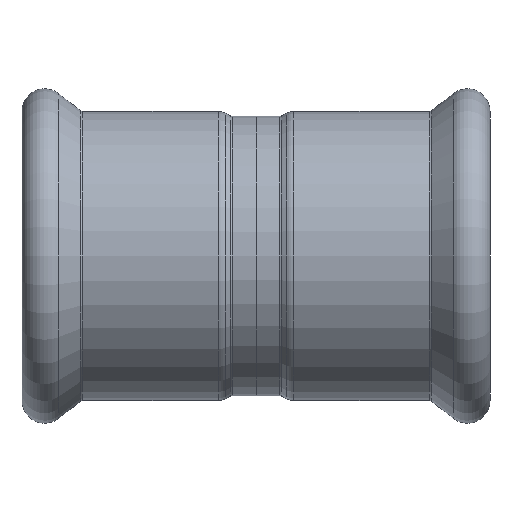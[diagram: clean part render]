
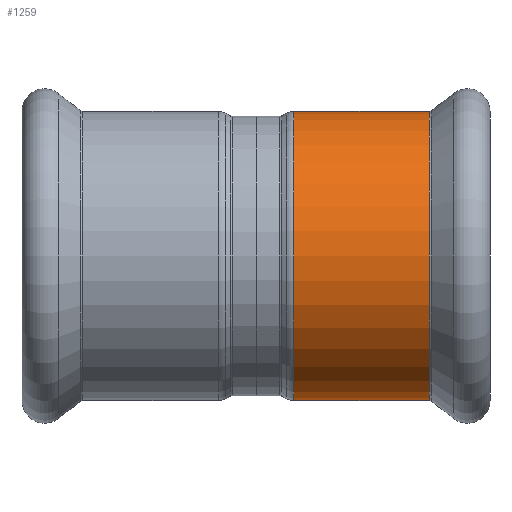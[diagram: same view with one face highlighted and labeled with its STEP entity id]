
A CAD part, front view. The second image highlights one B-rep face of the part: STEP entity #1259.
In plain terms, the highlighted cylindrical face has radius 19.15 mm (diameter 38.3 mm), a partial arc.
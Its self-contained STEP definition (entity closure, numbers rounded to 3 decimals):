
#18 = CARTESIAN_POINT ( 'NONE',  ( 5., 0., -19.15 ) ) ;
#56 = EDGE_CURVE ( 'NONE', #836, #812, #329, .T. ) ;
#86 = ORIENTED_EDGE ( 'NONE', *, *, #56, .F. ) ;
#89 = DIRECTION ( 'NONE',  ( 0., 0., 1. ) ) ;
#268 = EDGE_CURVE ( 'NONE', #836, #639, #615, .T. ) ;
#303 = CARTESIAN_POINT ( 'NONE',  ( 22.955, 0., -19.15 ) ) ;
#326 = ORIENTED_EDGE ( 'NONE', *, *, #268, .T. ) ;
#329 = LINE ( 'NONE', #740, #1940 ) ;
#396 = CARTESIAN_POINT ( 'NONE',  ( 5., 0., 19.15 ) ) ;
#401 = DIRECTION ( 'NONE',  ( -1., 0., 0. ) ) ;
#430 = AXIS2_PLACEMENT_3D ( 'NONE', #731, #401, #1799 ) ;
#506 = ORIENTED_EDGE ( 'NONE', *, *, #1245, .F. ) ;
#615 = CIRCLE ( 'NONE', #1559, 19.15 ) ;
#620 = CARTESIAN_POINT ( 'NONE',  ( -47.221, 0., 19.15 ) ) ;
#639 = VERTEX_POINT ( 'NONE', #708 ) ;
#684 = FACE_OUTER_BOUND ( 'NONE', #1316, .T. ) ;
#708 = CARTESIAN_POINT ( 'NONE',  ( 22.955, 0., 19.15 ) ) ;
#731 = CARTESIAN_POINT ( 'NONE',  ( 5., 0., 0. ) ) ;
#740 = CARTESIAN_POINT ( 'NONE',  ( -47.221, 0., -19.15 ) ) ;
#812 = VERTEX_POINT ( 'NONE', #18 ) ;
#836 = VERTEX_POINT ( 'NONE', #303 ) ;
#876 = DIRECTION ( 'NONE',  ( -1., 0., 0. ) ) ;
#923 = VECTOR ( 'NONE', #1827, 1000. ) ;
#1120 = ORIENTED_EDGE ( 'NONE', *, *, #1401, .T. ) ;
#1245 = EDGE_CURVE ( 'NONE', #812, #1998, #1791, .T. ) ;
#1259 = ADVANCED_FACE ( 'NONE', ( #684 ), #1920, .T. ) ;
#1316 = EDGE_LOOP ( 'NONE', ( #86, #326, #1120, #506 ) ) ;
#1318 = CARTESIAN_POINT ( 'NONE',  ( -47.221, 0., 0. ) ) ;
#1327 = LINE ( 'NONE', #620, #923 ) ;
#1345 = DIRECTION ( 'NONE',  ( -1., 0., 0. ) ) ;
#1378 = AXIS2_PLACEMENT_3D ( 'NONE', #1318, #876, #89 ) ;
#1401 = EDGE_CURVE ( 'NONE', #639, #1998, #1327, .T. ) ;
#1557 = CARTESIAN_POINT ( 'NONE',  ( 22.955, 0., 0. ) ) ;
#1559 = AXIS2_PLACEMENT_3D ( 'NONE', #1557, #1854, #1997 ) ;
#1791 = CIRCLE ( 'NONE', #430, 19.15 ) ;
#1799 = DIRECTION ( 'NONE',  ( 0., 0., 1. ) ) ;
#1827 = DIRECTION ( 'NONE',  ( -1., 0., 0. ) ) ;
#1854 = DIRECTION ( 'NONE',  ( -1., 0., 0. ) ) ;
#1920 = CYLINDRICAL_SURFACE ( 'NONE', #1378, 19.15 ) ;
#1940 = VECTOR ( 'NONE', #1345, 1000. ) ;
#1997 = DIRECTION ( 'NONE',  ( 0., 0., 1. ) ) ;
#1998 = VERTEX_POINT ( 'NONE', #396 ) ;
